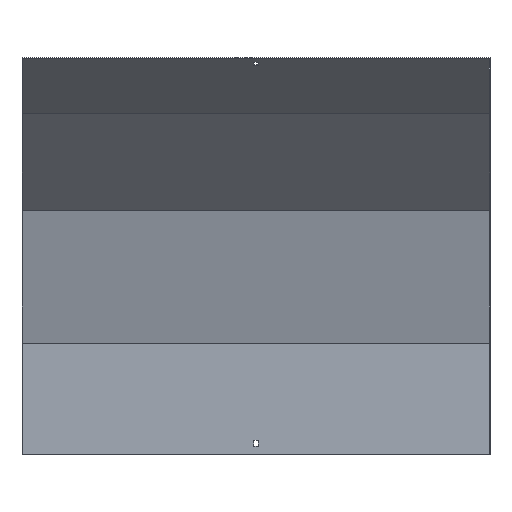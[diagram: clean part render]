
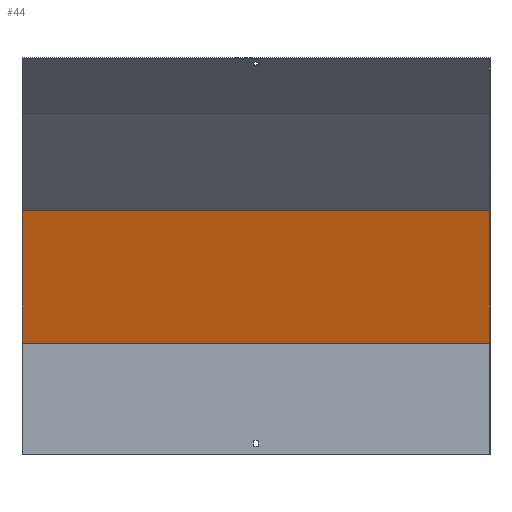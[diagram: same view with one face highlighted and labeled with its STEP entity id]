
A CAD part, front view. The second image highlights one B-rep face of the part: STEP entity #44.
In plain terms, the highlighted planar face has unit normal (0, -0.966, -0.259).
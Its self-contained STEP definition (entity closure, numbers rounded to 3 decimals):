
#11 = CARTESIAN_POINT ( 'NONE',  ( 351.5, 17.87, 168.788 ) ) ;
#32 = LINE ( 'NONE', #264, #599 ) ;
#44 = ADVANCED_FACE ( 'NONE', ( #323 ), #691, .T. ) ;
#61 = DIRECTION ( 'NONE',  ( -1., 0., 0. ) ) ;
#86 = CARTESIAN_POINT ( 'NONE',  ( -350., -34.918, 365.796 ) ) ;
#88 = LINE ( 'NONE', #238, #550 ) ;
#90 = ORIENTED_EDGE ( 'NONE', *, *, #689, .F. ) ;
#220 = CARTESIAN_POINT ( 'NONE',  ( -350., 58.87, 15.774 ) ) ;
#238 = CARTESIAN_POINT ( 'NONE',  ( 351.5, 18.5, 166.436 ) ) ;
#264 = CARTESIAN_POINT ( 'NONE',  ( 350., 58.87, 15.774 ) ) ;
#289 = LINE ( 'NONE', #220, #622 ) ;
#323 = FACE_OUTER_BOUND ( 'NONE', #946, .T. ) ;
#330 = ORIENTED_EDGE ( 'NONE', *, *, #698, .T. ) ;
#368 = DIRECTION ( 'NONE',  ( 0., -0.259, 0.966 ) ) ;
#384 = ORIENTED_EDGE ( 'NONE', *, *, #875, .F. ) ;
#396 = DIRECTION ( 'NONE',  ( 0., 0.259, -0.966 ) ) ;
#397 = DIRECTION ( 'NONE',  ( -1., 0., 0. ) ) ;
#454 = LINE ( 'NONE', #528, #874 ) ;
#482 = VERTEX_POINT ( 'NONE', #485 ) ;
#485 = CARTESIAN_POINT ( 'NONE',  ( -350., 18.5, 166.436 ) ) ;
#510 = VERTEX_POINT ( 'NONE', #86 ) ;
#528 = CARTESIAN_POINT ( 'NONE',  ( 351.5, -34.918, 365.796 ) ) ;
#550 = VECTOR ( 'NONE', #397, 1000. ) ;
#571 = VERTEX_POINT ( 'NONE', #958 ) ;
#591 = VERTEX_POINT ( 'NONE', #797 ) ;
#599 = VECTOR ( 'NONE', #947, 1000. ) ;
#610 = EDGE_CURVE ( 'NONE', #571, #591, #32, .T. ) ;
#622 = VECTOR ( 'NONE', #368, 1000. ) ;
#681 = AXIS2_PLACEMENT_3D ( 'NONE', #11, #929, #396 ) ;
#689 = EDGE_CURVE ( 'NONE', #482, #510, #289, .T. ) ;
#691 = PLANE ( 'NONE',  #681 ) ;
#698 = EDGE_CURVE ( 'NONE', #591, #510, #454, .T. ) ;
#714 = ORIENTED_EDGE ( 'NONE', *, *, #610, .T. ) ;
#797 = CARTESIAN_POINT ( 'NONE',  ( 350., -34.918, 365.796 ) ) ;
#874 = VECTOR ( 'NONE', #61, 1000. ) ;
#875 = EDGE_CURVE ( 'NONE', #571, #482, #88, .T. ) ;
#929 = DIRECTION ( 'NONE',  ( 0., -0.966, -0.259 ) ) ;
#946 = EDGE_LOOP ( 'NONE', ( #90, #384, #714, #330 ) ) ;
#947 = DIRECTION ( 'NONE',  ( 0., -0.259, 0.966 ) ) ;
#958 = CARTESIAN_POINT ( 'NONE',  ( 350., 18.5, 166.436 ) ) ;
